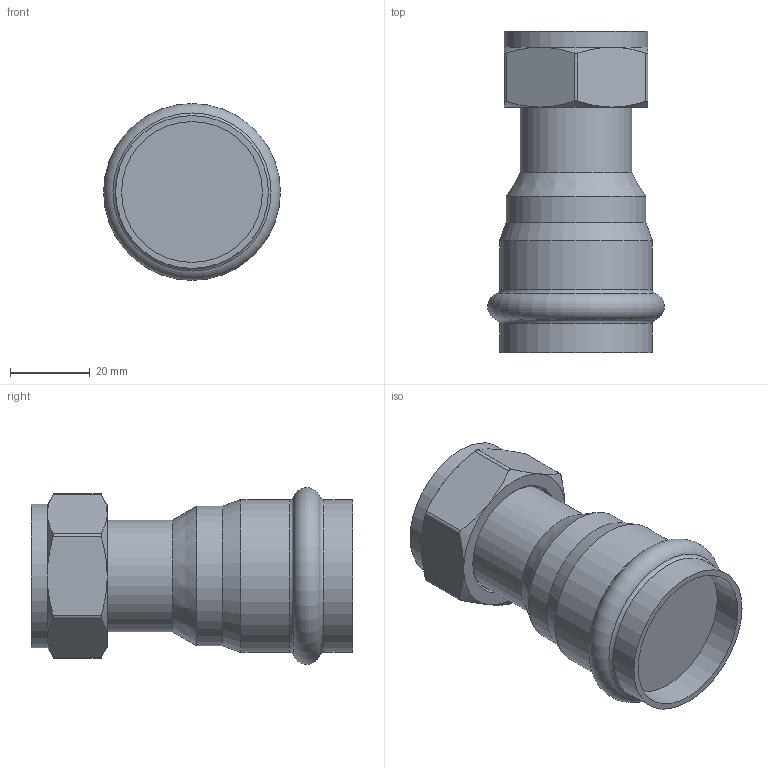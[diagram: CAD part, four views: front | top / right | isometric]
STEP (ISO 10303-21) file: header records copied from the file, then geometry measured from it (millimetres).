
FILE_DESCRIPTION(('STEP AP203'), '1');
FILE_NAME('VTi.908.I.003506', '', ('UNSPECIFIED'), ('UNSPECIFIED'), 'C3D Converter', 'C3D Toolkit', '');
FILE_SCHEMA(('CONFIG_CONTROL_DESIGN'));
Length unit declared in the file: millimetre
Bounding box: 44.3 x 80.5 x 44.3 mm (x, y, z)
Volume: 65362.1 mm3; surface area: 14419.7 mm2
Topology: 1 solids, 1 shells, 45 faces, 94 edges, 55 vertices
Faces by surface type: cone 16, cylinder 14, plane 12, torus 3
Full cylindrical faces by diameter (mm): 28 x1, 28.5 x1, 30.292 x1, 35 x1, 35.3 x1, 36 x1, 38.3 x2
Entity records: 2034 total; most frequent: CARTESIAN_POINT 1146, DIRECTION 166, ORIENTED_EDGE 158, EDGE_CURVE 79, AXIS2_PLACEMENT_3D 77, EDGE_LOOP 64, VERTEX_POINT 55, ADVANCED_FACE 45
